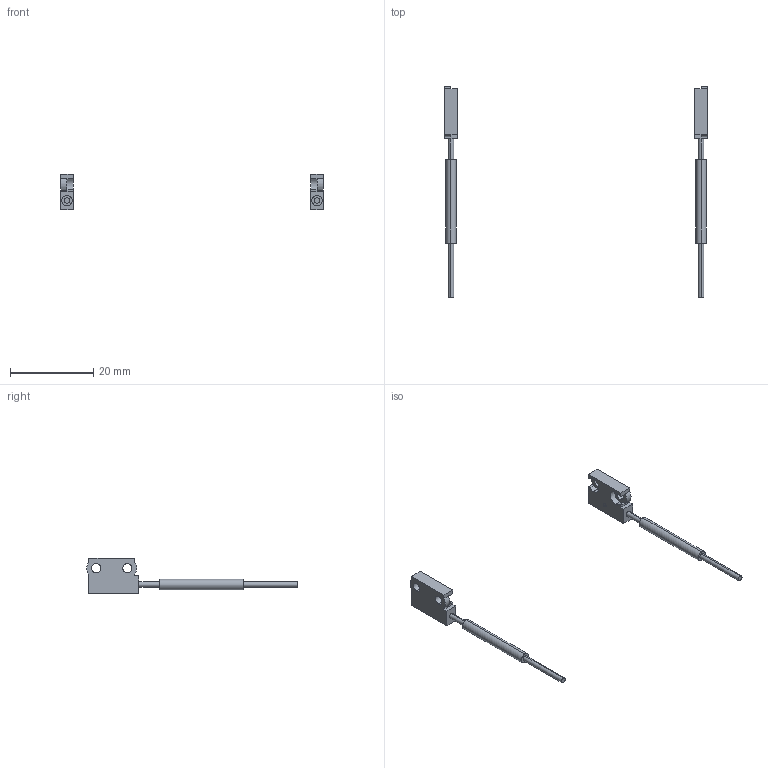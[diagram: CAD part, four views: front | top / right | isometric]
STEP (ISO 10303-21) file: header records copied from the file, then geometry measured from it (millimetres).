
FILE_DESCRIPTION (( 'STEP AP203' ), '1' );
FILE_NAME ('FT-WZ8.STEP', '2005-09-09T04:30:25', ( ' ' ), ( ' ' ), 'SwSTEP 2.0', 'SolidWorks 2004073', '' );
FILE_SCHEMA (( 'CONFIG_CONTROL_DESIGN' ));
Length unit declared in the file: millimetre
Products named in the file (3): FT-WZ8; FT-WZ8D_蹬怮椔; FT-WZ8P_蹬怮椔
Assembly tree (2 placements, depth 2):
  FT-WZ8
    FT-WZ8D_蹬怮椔
    FT-WZ8P_蹬怮椔
Bounding box: 63 x 50.5 x 8.5 mm (x, y, z)
Volume: 750.8 mm3; surface area: 1174.4 mm2
Topology: 2 solids, 2 shells, 80 faces, 204 edges, 136 vertices
Faces by surface type: plane 40, cylinder 40
Entity records: 2769 total; most frequent: DIRECTION 454, CARTESIAN_POINT 425, ORIENTED_EDGE 408, EDGE_CURVE 204, AXIS2_PLACEMENT_3D 165, VERTEX_POINT 136, LINE 124, VECTOR 124
